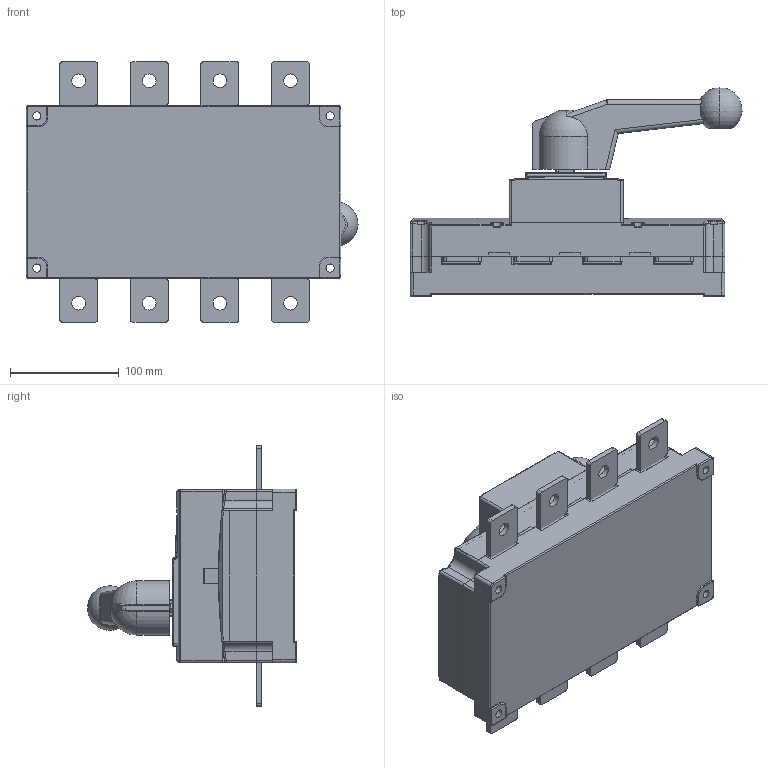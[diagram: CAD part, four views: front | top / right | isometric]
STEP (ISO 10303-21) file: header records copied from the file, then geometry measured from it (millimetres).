
FILE_DESCRIPTION((''),'2;1');
FILE_NAME('NH40-400-4_4P_202403_ASM','2024-04-16T',('zhuanghy'),(''),'CREO PARAMETRIC BY PTC INC, 2018070','CREO PARAMETRIC BY PTC INC, 2018070','');
FILE_SCHEMA(('AUTOMOTIVE_DESIGN { 1 0 10303 214 1 1 1 1 }'));
Length unit declared in the file: millimetre
Products named in the file (15): NH40-630BOCHA_97_1_1_1_1; ASM0004_ASM_3_ASM_ASM_1_1_ASM_5_ASM; NH40-315-3_ASM_ASM_1_1_ASM_1__4_ASM; NH40-315_630_202107__1_1_1_1; NH40-315-3_3P_201805_ASM_1_1__4_ASM; PRT0049_1; PRT0050_1; PRT0051_1; PRT0052_1; PRT0053_1; ASM0011_ASM_ASM_1_ASM; NH40-400-4_ASM_ASM_1_ASM; NH40-400-4_4P_201805_ASM_1_ASM; ASM0001_ASM_1_1_ASM; NH40-400-4_4P_202403_ASM
Assembly tree (21 placements, depth 6):
  NH40-400-4_4P_202403_ASM
    ASM0001_ASM_1_1_ASM
      NH40-315-3_3P_201805_ASM_1_1__4_ASM
        NH40-315-3_ASM_ASM_1_1_ASM_1__4_ASM
          ASM0004_ASM_3_ASM_ASM_1_1_ASM_5_ASM
            NH40-630BOCHA_97_1_1_1_1
        NH40-315_630_202107__1_1_1_1
      NH40-400-4_4P_201805_ASM_1_ASM
        NH40-400-4_ASM_ASM_1_ASM
          ASM0011_ASM_ASM_1_ASM
            PRT0049_1
            PRT0050_1
            PRT0051_1
            PRT0052_1
            PRT0053_1  x8
Bounding box: 305.73 x 192.5 x 240 mm (x, y, z)
Volume: 4474220.9 mm3; surface area: 471966.9 mm2
Topology: 14 solids, 15 shells, 1161 faces, 3036 edges, 1909 vertices
Faces by surface type: cylinder 473, plane 446, bspline 106, torus 105, sphere 23, cone 8
Entity records: 45384 total; most frequent: CARTESIAN_POINT 20522, ORIENTED_EDGE 5196, DIRECTION 4922, EDGE_CURVE 2598, AXIS2_PLACEMENT_3D 1806, VERTEX_POINT 1629, VECTOR 1310, LINE 1310
